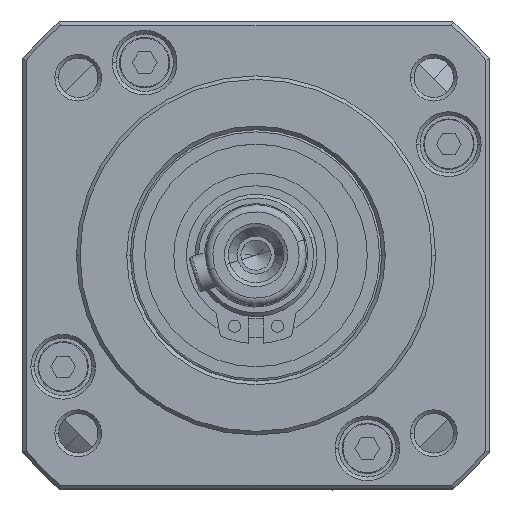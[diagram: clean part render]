
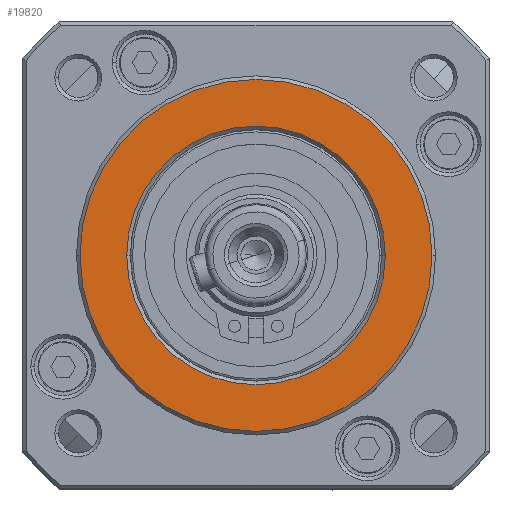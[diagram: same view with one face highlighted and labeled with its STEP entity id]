
A CAD part, top view. The second image highlights one B-rep face of the part: STEP entity #19820.
In plain terms, the highlighted planar face has unit normal (0, 0, 1).
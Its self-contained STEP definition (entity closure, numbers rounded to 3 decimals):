
#1073 = PLANE ( 'NONE',  #36833 ) ;
#1329 = ORIENTED_EDGE ( 'NONE', *, *, #13392, .T. ) ;
#5900 = CIRCLE ( 'NONE', #10462, 18. ) ;
#9534 = CARTESIAN_POINT ( 'NONE',  ( -20.147, 10.389, 76.75 ) ) ;
#10462 = AXIS2_PLACEMENT_3D ( 'NONE', #10474, #37328, #41195 ) ;
#10474 = CARTESIAN_POINT ( 'NONE',  ( -20.147, 10.389, 76.75 ) ) ;
#10972 = AXIS2_PLACEMENT_3D ( 'NONE', #29254, #37614, #38125 ) ;
#12337 = DIRECTION ( 'NONE',  ( -1., 0., 0. ) ) ;
#13392 = EDGE_CURVE ( 'NONE', #17557, #21413, #5900, .T. ) ;
#13808 = VERTEX_POINT ( 'NONE', #36298 ) ;
#13837 = DIRECTION ( 'NONE',  ( 0., 0., 1. ) ) ;
#14037 = FACE_BOUND ( 'NONE', #22292, .T. ) ;
#15454 = AXIS2_PLACEMENT_3D ( 'NONE', #17699, #13837, #40673 ) ;
#17287 = ORIENTED_EDGE ( 'NONE', *, *, #46083, .T. ) ;
#17557 = VERTEX_POINT ( 'NONE', #29989 ) ;
#17699 = CARTESIAN_POINT ( 'NONE',  ( -20.147, 10.389, 76.75 ) ) ;
#19820 = ADVANCED_FACE ( 'NONE', ( #14037, #32044 ), #1073, .F. ) ;
#21413 = VERTEX_POINT ( 'NONE', #45739 ) ;
#21665 = CIRCLE ( 'NONE', #15454, 24.5 ) ;
#22292 = EDGE_LOOP ( 'NONE', ( #1329, #46099 ) ) ;
#23744 = CARTESIAN_POINT ( 'NONE',  ( -20.147, 10.389, 76.75 ) ) ;
#24827 = DIRECTION ( 'NONE',  ( -1., 0., 0. ) ) ;
#26182 = CARTESIAN_POINT ( 'NONE',  ( -44.647, 10.389, 76.75 ) ) ;
#29254 = CARTESIAN_POINT ( 'NONE',  ( -20.147, 10.389, 76.75 ) ) ;
#29498 = AXIS2_PLACEMENT_3D ( 'NONE', #9534, #47799, #24827 ) ;
#29989 = CARTESIAN_POINT ( 'NONE',  ( -2.147, 10.389, 76.75 ) ) ;
#31450 = DIRECTION ( 'NONE',  ( 0., 0., -1. ) ) ;
#32044 = FACE_OUTER_BOUND ( 'NONE', #38039, .T. ) ;
#36298 = CARTESIAN_POINT ( 'NONE',  ( 4.353, 10.389, 76.75 ) ) ;
#36833 = AXIS2_PLACEMENT_3D ( 'NONE', #23744, #31450, #12337 ) ;
#37059 = CIRCLE ( 'NONE', #10972, 18. ) ;
#37328 = DIRECTION ( 'NONE',  ( 0., 0., -1. ) ) ;
#37614 = DIRECTION ( 'NONE',  ( 0., 0., -1. ) ) ;
#38039 = EDGE_LOOP ( 'NONE', ( #45502, #17287 ) ) ;
#38125 = DIRECTION ( 'NONE',  ( -1., 0., 0. ) ) ;
#40664 = EDGE_CURVE ( 'NONE', #47033, #13808, #21665, .T. ) ;
#40673 = DIRECTION ( 'NONE',  ( -1., 0., 0. ) ) ;
#41195 = DIRECTION ( 'NONE',  ( -1., 0., 0. ) ) ;
#45502 = ORIENTED_EDGE ( 'NONE', *, *, #40664, .T. ) ;
#45739 = CARTESIAN_POINT ( 'NONE',  ( -38.147, 10.389, 76.75 ) ) ;
#46083 = EDGE_CURVE ( 'NONE', #13808, #47033, #49291, .T. ) ;
#46099 = ORIENTED_EDGE ( 'NONE', *, *, #49370, .T. ) ;
#47033 = VERTEX_POINT ( 'NONE', #26182 ) ;
#47799 = DIRECTION ( 'NONE',  ( 0., 0., 1. ) ) ;
#49291 = CIRCLE ( 'NONE', #29498, 24.5 ) ;
#49370 = EDGE_CURVE ( 'NONE', #21413, #17557, #37059, .T. ) ;
